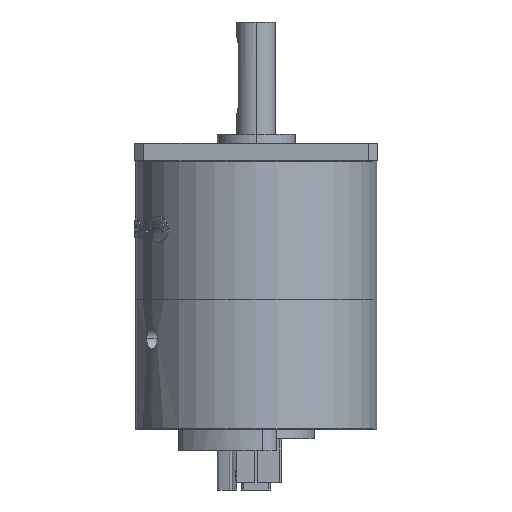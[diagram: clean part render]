
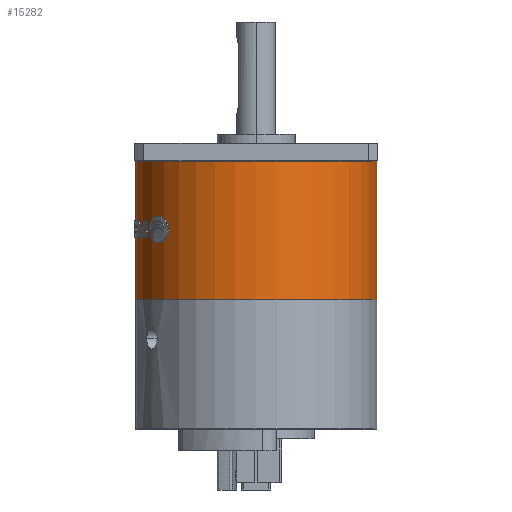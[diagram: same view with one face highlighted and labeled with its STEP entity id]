
A CAD part, left-side view. The second image highlights one B-rep face of the part: STEP entity #15282.
In plain terms, the highlighted cylindrical face has radius 24.75 mm (diameter 49.5 mm), a partial arc.
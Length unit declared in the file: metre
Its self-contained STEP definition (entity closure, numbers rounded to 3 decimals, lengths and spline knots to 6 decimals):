
#193 = ORIENTED_EDGE ( 'NONE', *, *, #4515, .F. ) ;
#686 = ORIENTED_EDGE ( 'NONE', *, *, #4883, .T. ) ;
#710 = AXIS2_PLACEMENT_3D ( 'NONE', #8501, #8516, #8524 ) ;
#835 = AXIS2_PLACEMENT_3D ( 'NONE', #8395, #8412, #8443 ) ;
#2398 = EDGE_CURVE ( 'NONE', #11845, #7085, #5540, .T. ) ;
#2415 = ORIENTED_EDGE ( 'NONE', *, *, #2398, .T. ) ;
#2506 = DIRECTION ( 'NONE',  ( 0., -1., 0. ) ) ;
#2801 = VERTEX_POINT ( 'NONE', #13111 ) ;
#4027 = AXIS2_PLACEMENT_3D ( 'NONE', #11812, #11816, #11848 ) ;
#4047 = VECTOR ( 'NONE', #6416, 1. ) ;
#4214 = EDGE_LOOP ( 'NONE', ( #193, #686, #12058, #6486, #2415 ) ) ;
#4515 = EDGE_CURVE ( 'NONE', #11870, #7085, #8213, .T. ) ;
#4528 = CARTESIAN_POINT ( 'NONE',  ( -0.02475, 0., -0.0001 ) ) ;
#4608 = EDGE_CURVE ( 'NONE', #2801, #13858, #4866, .T. ) ;
#4660 = CARTESIAN_POINT ( 'NONE',  ( 0., 0.02475, -0.0285 ) ) ;
#4866 = LINE ( 'NONE', #6392, #4047 ) ;
#4883 = EDGE_CURVE ( 'NONE', #11870, #2801, #10319, .T. ) ;
#4901 = EDGE_CURVE ( 'NONE', #13858, #11845, #6112, .T. ) ;
#5540 = CIRCLE ( 'NONE', #4027, 0.02475 ) ;
#6069 = CARTESIAN_POINT ( 'NONE',  ( 0., 0.02475, -0.0285 ) ) ;
#6088 = DIRECTION ( 'NONE',  ( 0., 0., 1. ) ) ;
#6112 = CIRCLE ( 'NONE', #710, 0.02475 ) ;
#6385 = DIRECTION ( 'NONE',  ( 0., 0., 1. ) ) ;
#6392 = CARTESIAN_POINT ( 'NONE',  ( 0., -0.02475, -0.0285 ) ) ;
#6416 = DIRECTION ( 'NONE',  ( 0., 0., 1. ) ) ;
#6486 = ORIENTED_EDGE ( 'NONE', *, *, #4901, .T. ) ;
#7085 = VERTEX_POINT ( 'NONE', #16389 ) ;
#8213 = LINE ( 'NONE', #6069, #15201 ) ;
#8246 = CYLINDRICAL_SURFACE ( 'NONE', #12947, 0.02475 ) ;
#8395 = CARTESIAN_POINT ( 'NONE',  ( 0., 0., -0.0285 ) ) ;
#8412 = DIRECTION ( 'NONE',  ( 0., 0., 1. ) ) ;
#8443 = DIRECTION ( 'NONE',  ( 0., -1., 0. ) ) ;
#8501 = CARTESIAN_POINT ( 'NONE',  ( 0., 0., -0.0001 ) ) ;
#8516 = DIRECTION ( 'NONE',  ( 0., 0., -1. ) ) ;
#8524 = DIRECTION ( 'NONE',  ( -1., 0., 0. ) ) ;
#10319 = CIRCLE ( 'NONE', #835, 0.02475 ) ;
#11532 = CARTESIAN_POINT ( 'NONE',  ( 0., -0.02475, -0.0001 ) ) ;
#11812 = CARTESIAN_POINT ( 'NONE',  ( 0., 0., -0.0001 ) ) ;
#11816 = DIRECTION ( 'NONE',  ( 0., 0., -1. ) ) ;
#11845 = VERTEX_POINT ( 'NONE', #4528 ) ;
#11848 = DIRECTION ( 'NONE',  ( -1., 0., 0. ) ) ;
#11870 = VERTEX_POINT ( 'NONE', #4660 ) ;
#12058 = ORIENTED_EDGE ( 'NONE', *, *, #4608, .T. ) ;
#12181 = FACE_OUTER_BOUND ( 'NONE', #4214, .T. ) ;
#12947 = AXIS2_PLACEMENT_3D ( 'NONE', #13048, #6385, #2506 ) ;
#13048 = CARTESIAN_POINT ( 'NONE',  ( 0., 0., -0.0285 ) ) ;
#13111 = CARTESIAN_POINT ( 'NONE',  ( 0., -0.02475, -0.0285 ) ) ;
#13858 = VERTEX_POINT ( 'NONE', #11532 ) ;
#15201 = VECTOR ( 'NONE', #6088, 1. ) ;
#15282 = ADVANCED_FACE ( 'NONE', ( #12181 ), #8246, .T. ) ;
#16389 = CARTESIAN_POINT ( 'NONE',  ( 0., 0.02475, -0.0001 ) ) ;
